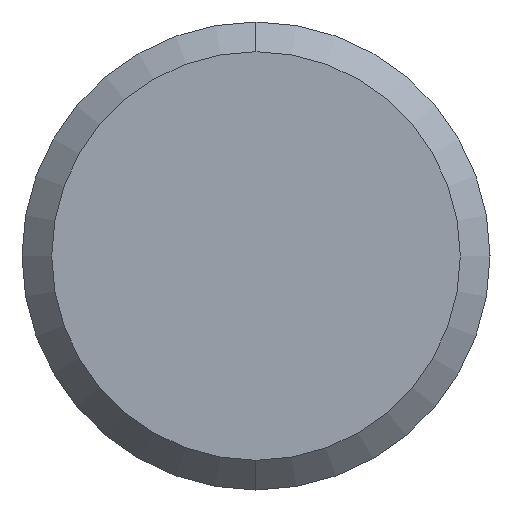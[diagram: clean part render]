
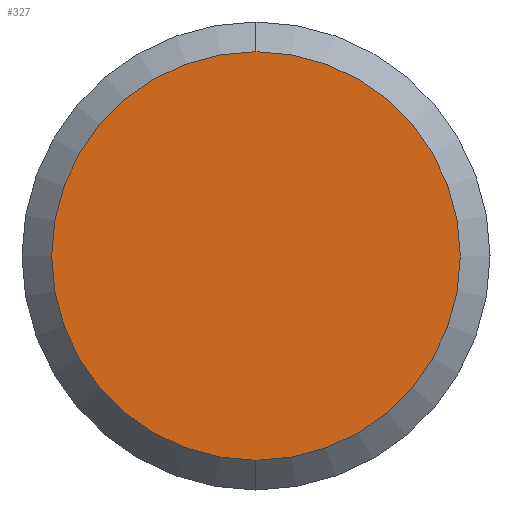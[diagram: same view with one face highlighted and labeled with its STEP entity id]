
A CAD part, left-side view. The second image highlights one B-rep face of the part: STEP entity #327.
In plain terms, the highlighted planar face has unit normal (-1, 0, 0).
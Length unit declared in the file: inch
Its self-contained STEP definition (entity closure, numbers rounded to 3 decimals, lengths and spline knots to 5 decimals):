
#14 = CARTESIAN_POINT ( 'NONE',  ( 0., 0., 0. ) ) ;
#16 = DIRECTION ( 'NONE',  ( 0., 0., -1. ) ) ;
#45 = VERTEX_POINT ( 'NONE', #212 ) ;
#108 = DIRECTION ( 'NONE',  ( -1., 0., 0. ) ) ;
#131 = EDGE_LOOP ( 'NONE', ( #443, #191 ) ) ;
#132 = DIRECTION ( 'NONE',  ( 1., 0., 0. ) ) ;
#133 = CARTESIAN_POINT ( 'NONE',  ( 0., 0., -0.17185 ) ) ;
#137 = AXIS2_PLACEMENT_3D ( 'NONE', #14, #159, #309 ) ;
#158 = CIRCLE ( 'NONE', #428, 0.17185 ) ;
#159 = DIRECTION ( 'NONE',  ( 1., 0., 0. ) ) ;
#162 = VERTEX_POINT ( 'NONE', #133 ) ;
#191 = ORIENTED_EDGE ( 'NONE', *, *, #306, .F. ) ;
#192 = EDGE_CURVE ( 'NONE', #162, #45, #158, .T. ) ;
#197 = FACE_OUTER_BOUND ( 'NONE', #131, .T. ) ;
#212 = CARTESIAN_POINT ( 'NONE',  ( 0., 0., 0.17185 ) ) ;
#288 = AXIS2_PLACEMENT_3D ( 'NONE', #312, #108, #365 ) ;
#306 = EDGE_CURVE ( 'NONE', #45, #162, #342, .T. ) ;
#309 = DIRECTION ( 'NONE',  ( 0., 0., -1. ) ) ;
#312 = CARTESIAN_POINT ( 'NONE',  ( 0., 0.17185, 0. ) ) ;
#327 = ADVANCED_FACE ( 'NONE', ( #197 ), #458, .T. ) ;
#342 = CIRCLE ( 'NONE', #137, 0.17185 ) ;
#365 = DIRECTION ( 'NONE',  ( 0., 0., 1. ) ) ;
#421 = CARTESIAN_POINT ( 'NONE',  ( 0., 0., 0. ) ) ;
#428 = AXIS2_PLACEMENT_3D ( 'NONE', #421, #132, #16 ) ;
#443 = ORIENTED_EDGE ( 'NONE', *, *, #192, .F. ) ;
#458 = PLANE ( 'NONE',  #288 ) ;
